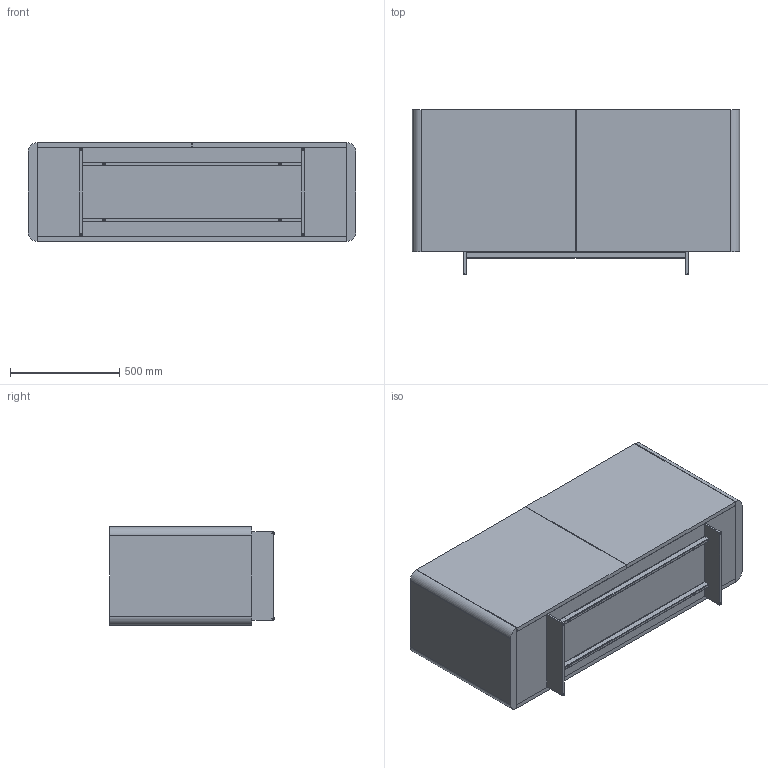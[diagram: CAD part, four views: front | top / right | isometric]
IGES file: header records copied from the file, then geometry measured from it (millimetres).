
Start section: SolidWorks IGES file using analytic representation for surfaces
Global section: file name: Y:\eforma\TECNICO\SOLIDWORKS\E-FORMA\6-MADIE\ALMA\02 parts\AL1LW_Alma_149,5x45x75h_Top Wood.IGS; native system: SolidWorks 2022; preprocessor: SolidWorks 2022; author: eforma.tech; date: 240806.100012; units: millimetre
Bounding box: 1495 x 753 x 450 mm (x, y, z)
Volume: 98197678.8 mm3; surface area: 9859097.8 mm2
Topology: 21 solids, 21 shells, 359 faces, 815 edges, 482 vertices
Faces by surface type: plane 187, revolution 172
